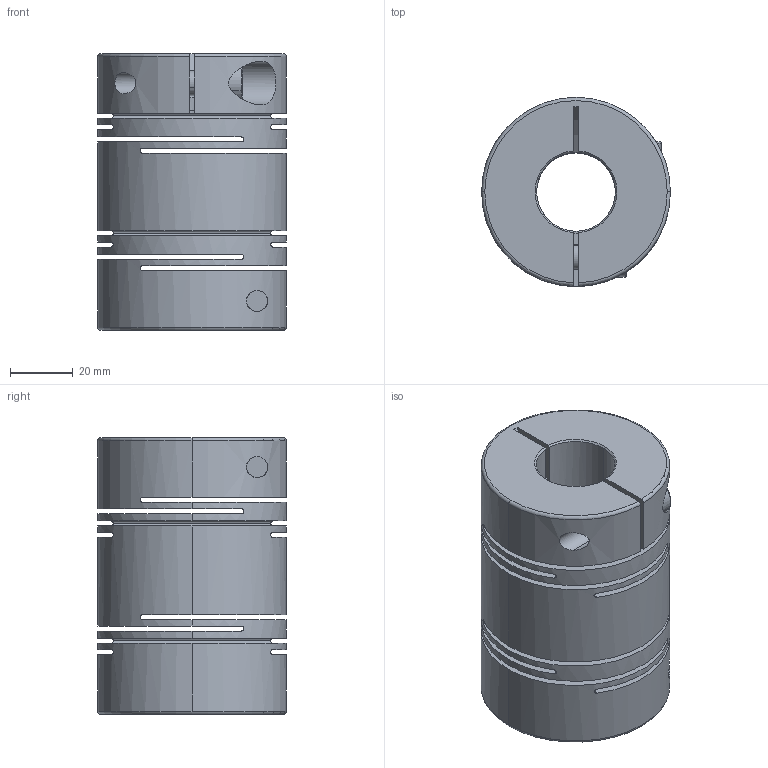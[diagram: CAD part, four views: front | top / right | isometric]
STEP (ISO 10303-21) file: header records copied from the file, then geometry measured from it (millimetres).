
FILE_DESCRIPTION (( 'STEP AP203' ), '1' );
FILE_NAME ('SRBB-60C.STEP', '2013-05-07T09:38:13', ( 'MYCOM' ), ( '' ), 'SwSTEP 2.0', 'SolidWorks 2012', '' );
FILE_SCHEMA (( 'CONFIG_CONTROL_DESIGN' ));
Length unit declared in the file: millimetre
Products named in the file (1): SRBB-60C
Bounding box: 60 x 60 x 88 mm (x, y, z)
Volume: 175409.5 mm3; surface area: 59353.2 mm2
Topology: 1 solids, 1 shells, 167 faces, 432 edges, 271 vertices
Faces by surface type: cylinder 76, plane 58, cone 17, torus 16
Entity records: 5772 total; most frequent: CARTESIAN_POINT 1544, DIRECTION 903, ORIENTED_EDGE 856, EDGE_CURVE 428, AXIS2_PLACEMENT_3D 362, VERTEX_POINT 271, CIRCLE 194, EDGE_LOOP 193
